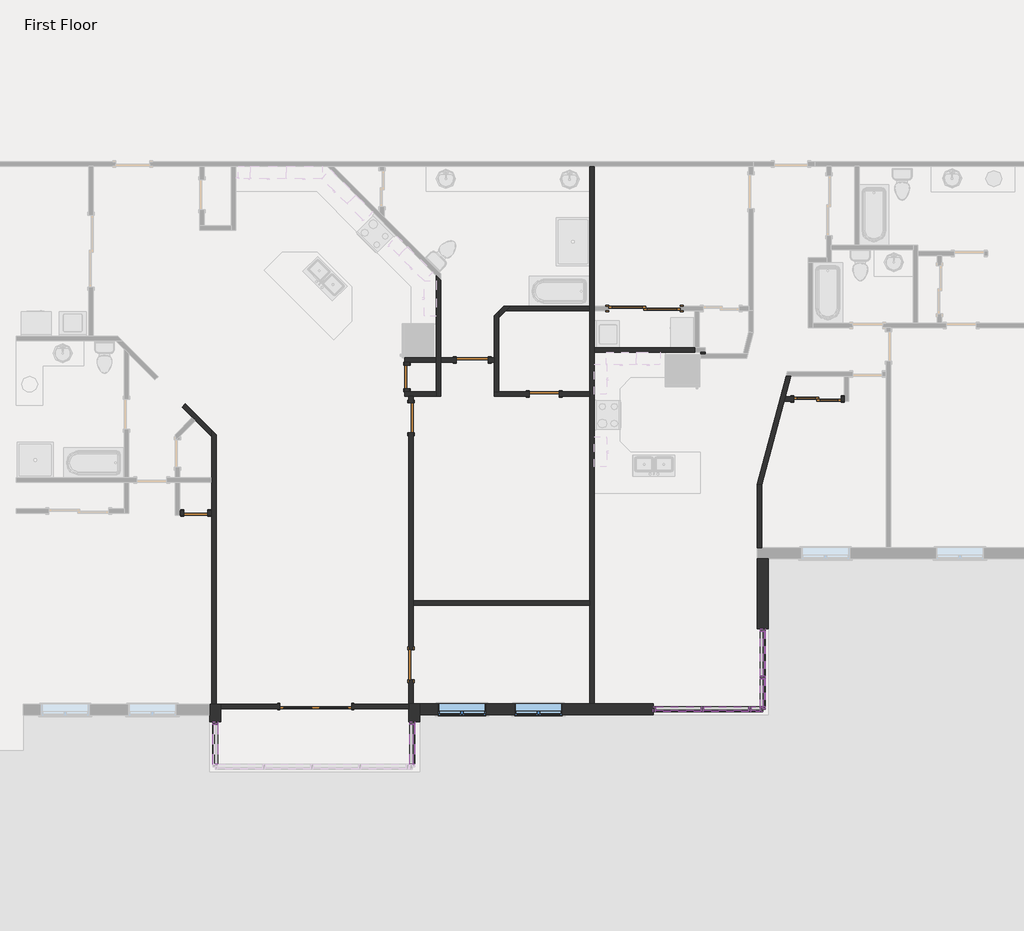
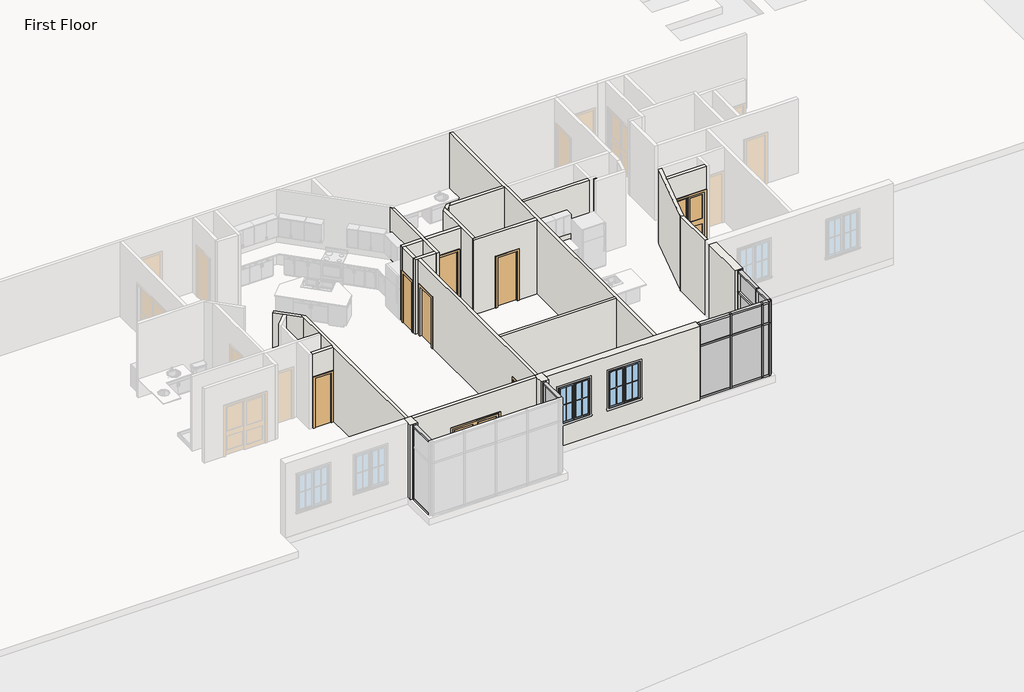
# One storey, part 4 of 17: 38 members, 24 walls, 12 plates, 9 doors, 2 windows.
"""IFC4 building model written with IfcOpenShell, lengths in millimetres."""

from ifc_helpers import new_model, si_unit, frame, origin, origin_with_axes, place, context, project, spatial, polyline, outline, extrude, faceted_brep, transform, mapped, element, save
from components import door_0a7806e9, door_e2285e44, door_d8f5dbb5, door_f2b275c1, door_d141acb4, door_900f836f, door_caaf2a11, rectangular_mullion_rectangular_mullion_1_fa3625a1, rectangular_mullion_rectangular_mullion_1_7cbf0b94, rectangular_mullion_rectangular_mullion_1_6186cc23, rectangular_mullion_rectangular_mullion_1_049a2e78, rectangular_mullion_rectangular_mullion_1_a50b3cda, rectangular_mullion_rectangular_mullion_1_5cd4c5ac, rectangular_mullion_rectangular_mullion_1_13524bf9, rectangular_mullion_rectangular_mullion_1_a1888574, rectangular_mullion_rectangular_mullion_1_777cae27, rectangular_mullion_rectangular_mullion_1_d1eb19d3, rectangular_mullion_rectangular_mullion_1_51e130ae, rectangular_mullion_rectangular_mullion_1_daa2411d, system_panel_glazed_0ed27d1d, system_panel_glazed_134bacdb, system_panel_glazed_53e6f9fb, system_panel_glazed_cb820e14, system_panel_glazed_7c98c5cb, system_panel_glazed_dc3c0d95, system_panel_glazed_257c6b8d, system_panel_glazed_6272dde4, system_panel_glazed_2237517c, system_panel_glazed_5f627d4c, window_33528cc2

model = new_model("IFC4")

# Units and contexts
model_context = context("Model", 3, world=origin())
ifc_project = project(units=[si_unit("LENGTHUNIT", "METRE", prefix="MILLI")], contexts=[model_context])

# Site, building, storey
site = spatial("IfcSite", under=ifc_project)
building = spatial("IfcBuilding", under=site)
storey = spatial("IfcBuildingStorey", under=building, Name="First Floor", Elevation=0.0)

# Doors
placement = place(None, origin())
door_shape = door_0a7806e9(model_context)
element("IfcDoor", 1, ObjectType="Double-Glass 1 : 72\" x 82\"", at=placement, inside=storey, context=model_context, shape_type="MappedRepresentation", body=[
    mapped(door_shape, transform((35119.623284, -18481.0379087, 0.0), x_axis=(-1.0, 0.0, 0.0), y_axis=(0.0, -1.0, 0.0), z_axis=(0.0, 0.0, 1.0))),
])
door_2_shape = door_e2285e44(model_context)
element("IfcDoor", 2, ObjectType="Single-Flush : 24\" x 80\"", at=placement, inside=storey, context=model_context, shape_type="MappedRepresentation", body=[
    mapped(door_2_shape, transform((37444.6738013, -10083.539835, 0.0), x_axis=(0.0, -1.0, 0.0), y_axis=(1.0, 0.0, 0.0), z_axis=(0.0, 0.0, 1.0))),
])
element("IfcDoor", 3, ObjectType="Single-Flush : 24\" x 80\"", at=placement, inside=storey, context=model_context, shape_type="MappedRepresentation", body=[
    mapped(door_2_shape, transform((32056.0053, -13556.0564679, 0.0), x_axis=(1.0, 0.0, 0.0), y_axis=(0.0, 1.0, 0.0), z_axis=(0.0, 0.0, 1.0))),
])
door_3_shape = door_d8f5dbb5(model_context)
element("IfcDoor", 4, ObjectType="Single-Flush : 30\" x 80\"", at=placement, inside=storey, context=model_context, shape_type="MappedRepresentation", body=[
    mapped(door_3_shape, transform((40944.0341819, -10517.1896208, 0.0), x_axis=(1.0, 0.0, 0.0), y_axis=(0.0, 1.0, 0.0), z_axis=(0.0, 0.0, 1.0))),
])
door_4_shape = door_f2b275c1(model_context)
element("IfcDoor", 5, ObjectType="Single-Flush : 30\" x 80\"", at=placement, inside=storey, context=model_context, shape_type="MappedRepresentation", body=[
    mapped(door_4_shape, transform((37544.2970292, -11126.7896208, 0.0), x_axis=(0.0, 1.0, 0.0), y_axis=(-1.0, 0.0, 0.0), z_axis=(0.0, 0.0, 1.0))),
])
element("IfcDoor", 6, ObjectType="Single-Flush : 30\" x 80\"", at=placement, inside=storey, context=model_context, shape_type="MappedRepresentation", body=[
    mapped(door_4_shape, transform((37544.2970292, -17416.6191587, 0.0), x_axis=(0.0, -1.0, 0.0), y_axis=(1.0, 0.0, 0.0), z_axis=(0.0, 0.0, 1.0))),
])
door_5_shape = door_d141acb4(model_context)
element("IfcDoor", 7, ObjectType="Single-Flush : 32\" x 84\"", at=placement, inside=storey, context=model_context, shape_type="MappedRepresentation", body=[
    mapped(door_5_shape, transform((39111.3713345, -9649.8900492, 0.0), x_axis=(1.0, 0.0, 0.0), y_axis=(0.0, 1.0, 0.0), z_axis=(0.0, 0.0, 1.0))),
])
door_6_shape = door_900f836f(model_context)
element("IfcDoor", 8, ObjectType="Sliding-Closet : 48\" x 80\"", at=placement, inside=storey, context=model_context, shape_type="MappedRepresentation", body=[
    mapped(door_6_shape, transform((47911.7460269, -10519.7402375, 0.0), x_axis=(-1.0, 0.0, 0.0), y_axis=(0.0, -1.0, 0.0), z_axis=(0.0, 0.0, 1.0))),
])
door_7_shape = door_caaf2a11(model_context)
element("IfcDoor", 9, ObjectType="Sliding-Closet : 72\" x 80\"", at=placement, inside=storey, context=model_context, shape_type="MappedRepresentation", body=[
    mapped(door_7_shape, transform((43502.5485687, -8462.220689, 0.0), x_axis=(1.0, 0.0, 0.0), y_axis=(0.0, 1.0, 0.0), z_axis=(0.0, 0.0, 1.0))),
])

# Members
rectangular_mullion_rectangular_mullion_1_shape = rectangular_mullion_rectangular_mullion_1_fa3625a1(model_context)
element("IfcMember", 10, ObjectType="Rectangular Mullion : Rectangular Mullion 1", at=placement, inside=storey, context=model_context, shape_type="MappedRepresentation", body=[
    mapped(rectangular_mullion_rectangular_mullion_1_shape, transform((44943.6345295, -18555.6618072, 3048.0), x_axis=(0.0, 0.0, 1.0), y_axis=(0.0, -1.0, 0.0), z_axis=(1.0, 0.0, 0.0))),
])
element("IfcMember", 11, ObjectType="Rectangular Mullion : Rectangular Mullion 1", at=placement, inside=storey, context=model_context, shape_type="MappedRepresentation", body=[
    mapped(rectangular_mullion_rectangular_mullion_1_shape, transform((46162.8345295, -18555.6618072, 3048.0), x_axis=(0.0, 0.0, 1.0), y_axis=(0.0, -1.0, 0.0), z_axis=(1.0, 0.0, 0.0))),
])
element("IfcMember", 12, ObjectType="Rectangular Mullion : Rectangular Mullion 1", at=placement, inside=storey, context=model_context, shape_type="MappedRepresentation", body=[
    mapped(rectangular_mullion_rectangular_mullion_1_shape, transform((43787.9345292, -18555.6618072, 0.0), x_axis=(0.0, 0.0, -1.0), y_axis=(0.0, -1.0, 0.0), z_axis=(-1.0, 0.0, 0.0))),
])
element("IfcMember", 13, ObjectType="Rectangular Mullion : Rectangular Mullion 1", at=placement, inside=storey, context=model_context, shape_type="MappedRepresentation", body=[
    mapped(rectangular_mullion_rectangular_mullion_1_shape, transform((45007.1345295, -18555.6618072, 0.0), x_axis=(0.0, 0.0, -1.0), y_axis=(0.0, -1.0, 0.0), z_axis=(-1.0, 0.0, 0.0))),
])
rectangular_mullion_rectangular_mullion_1_2_shape = rectangular_mullion_rectangular_mullion_1_7cbf0b94(model_context)
element("IfcMember", 14, ObjectType="Rectangular Mullion : Rectangular Mullion 1", at=placement, inside=storey, context=model_context, shape_type="MappedRepresentation", body=[
    mapped(rectangular_mullion_rectangular_mullion_1_2_shape, transform((44943.6345295, -18555.6618072, 2165.35), x_axis=(0.0, 0.0, 1.0), y_axis=(0.0, -1.0, 0.0), z_axis=(1.0, 0.0, 0.0))),
])
element("IfcMember", 15, ObjectType="Rectangular Mullion : Rectangular Mullion 1", at=placement, inside=storey, context=model_context, shape_type="MappedRepresentation", body=[
    mapped(rectangular_mullion_rectangular_mullion_1_2_shape, transform((46162.8345295, -18555.6618072, 2165.35), x_axis=(0.0, 0.0, 1.0), y_axis=(0.0, -1.0, 0.0), z_axis=(1.0, 0.0, 0.0))),
])
rectangular_mullion_rectangular_mullion_1_3_shape = rectangular_mullion_rectangular_mullion_1_6186cc23(model_context)
element("IfcMember", 16, ObjectType="Rectangular Mullion : Rectangular Mullion 1", at=placement, inside=storey, context=model_context, shape_type="MappedRepresentation", body=[
    mapped(rectangular_mullion_rectangular_mullion_1_3_shape, transform((44975.3845295, -18555.6618072, 0.0), x_axis=(1.0, 0.0, 0.0), y_axis=(0.0, -1.0, 0.0), z_axis=(0.0, 0.0, -1.0))),
])
element("IfcMember", 17, ObjectType="Rectangular Mullion : Rectangular Mullion 1", at=placement, inside=storey, context=model_context, shape_type="MappedRepresentation", body=[
    mapped(rectangular_mullion_rectangular_mullion_1_3_shape, transform((46194.5845295, -18555.6618072, 0.0), x_axis=(1.0, 0.0, 0.0), y_axis=(0.0, -1.0, 0.0), z_axis=(0.0, 0.0, -1.0))),
])
rectangular_mullion_rectangular_mullion_1_4_shape = rectangular_mullion_rectangular_mullion_1_049a2e78(model_context)
element("IfcMember", 18, ObjectType="Rectangular Mullion : Rectangular Mullion 1", at=placement, inside=storey, context=model_context, shape_type="MappedRepresentation", body=[
    mapped(rectangular_mullion_rectangular_mullion_1_4_shape, transform((44975.3845295, -18555.6618072, 2165.35), x_axis=(1.0, 0.0, 0.0), y_axis=(0.0, -1.0, 0.0), z_axis=(0.0, 0.0, -1.0))),
])
element("IfcMember", 19, ObjectType="Rectangular Mullion : Rectangular Mullion 1", at=placement, inside=storey, context=model_context, shape_type="MappedRepresentation", body=[
    mapped(rectangular_mullion_rectangular_mullion_1_4_shape, transform((46194.5845295, -18555.6618072, 2165.35), x_axis=(1.0, 0.0, 0.0), y_axis=(0.0, -1.0, 0.0), z_axis=(0.0, 0.0, -1.0))),
])
rectangular_mullion_rectangular_mullion_1_5_shape = rectangular_mullion_rectangular_mullion_1_a50b3cda(model_context)
element("IfcMember", 20, ObjectType="Rectangular Mullion : Rectangular Mullion 1", at=placement, inside=storey, context=model_context, shape_type="MappedRepresentation", body=[
    mapped(rectangular_mullion_rectangular_mullion_1_5_shape, transform((46511.3297255, -18555.6618072, 0.0), x_axis=(1.0, 0.0, 0.0), y_axis=(0.0, -1.0, 0.0), z_axis=(0.0, 0.0, -1.0))),
])
element("IfcMember", 21, ObjectType="Rectangular Mullion : Rectangular Mullion 1", at=placement, inside=storey, context=model_context, shape_type="MappedRepresentation", body=[
    mapped(rectangular_mullion_rectangular_mullion_1_5_shape, transform((37582.8620389, -18872.3566587, 0.0), x_axis=(0.0, 1.0, 0.0), y_axis=(1.0, 0.0, 0.0), z_axis=(0.0, 0.0, -1.0))),
])
rectangular_mullion_rectangular_mullion_1_6_shape = rectangular_mullion_rectangular_mullion_1_5cd4c5ac(model_context)
element("IfcMember", 22, ObjectType="Rectangular Mullion : Rectangular Mullion 1", at=placement, inside=storey, context=model_context, shape_type="MappedRepresentation", body=[
    mapped(rectangular_mullion_rectangular_mullion_1_6_shape, transform((46511.3297255, -18555.6618072, 2165.35), x_axis=(1.0, 0.0, 0.0), y_axis=(0.0, -1.0, 0.0), z_axis=(0.0, 0.0, -1.0))),
])
element("IfcMember", 23, ObjectType="Rectangular Mullion : Rectangular Mullion 1", at=placement, inside=storey, context=model_context, shape_type="MappedRepresentation", body=[
    mapped(rectangular_mullion_rectangular_mullion_1_6_shape, transform((37582.8620389, -18872.3566587, 2165.35), x_axis=(0.0, 1.0, 0.0), y_axis=(1.0, 0.0, 0.0), z_axis=(0.0, 0.0, -1.0))),
])
element("IfcMember", 24, ObjectType="Rectangular Mullion : Rectangular Mullion 1", at=placement, inside=storey, context=model_context, shape_type="MappedRepresentation", body=[
    mapped(rectangular_mullion_rectangular_mullion_1_6_shape, transform((43724.4345292, -18555.6618072, 3048.0), x_axis=(-1.0, 0.0, 0.0), y_axis=(0.0, -1.0, 0.0), z_axis=(0.0, 0.0, 1.0))),
])
element("IfcMember", 25, ObjectType="Rectangular Mullion : Rectangular Mullion 1", at=placement, inside=storey, context=model_context, shape_type="MappedRepresentation", body=[
    mapped(rectangular_mullion_rectangular_mullion_1_6_shape, transform((32553.6620389, -18872.3566587, 3048.0), x_axis=(0.0, 1.0, 0.0), y_axis=(-1.0, 0.0, 0.0), z_axis=(0.0, 0.0, 1.0))),
])
element("IfcMember", 26, ObjectType="Rectangular Mullion : Rectangular Mullion 1", at=placement, inside=storey, context=model_context, shape_type="MappedRepresentation", body=[
    mapped(rectangular_mullion_rectangular_mullion_1_5_shape, transform((43724.4345292, -18555.6618072, 2165.35), x_axis=(-1.0, 0.0, 0.0), y_axis=(0.0, -1.0, 0.0), z_axis=(0.0, 0.0, 1.0))),
])
element("IfcMember", 27, ObjectType="Rectangular Mullion : Rectangular Mullion 1", at=placement, inside=storey, context=model_context, shape_type="MappedRepresentation", body=[
    mapped(rectangular_mullion_rectangular_mullion_1_5_shape, transform((32553.6620389, -18872.3566587, 2165.35), x_axis=(0.0, 1.0, 0.0), y_axis=(-1.0, 0.0, 0.0), z_axis=(0.0, 0.0, 1.0))),
])
element("IfcMember", 28, ObjectType="Rectangular Mullion : Rectangular Mullion 1", at=placement, inside=storey, context=model_context, shape_type="MappedRepresentation", body=[
    mapped(rectangular_mullion_rectangular_mullion_1_shape, transform((46511.3297255, -17714.54885, 3048.0), x_axis=(0.0, 0.0, 1.0), y_axis=(-1.0, 0.0, 0.0), z_axis=(0.0, -1.0, 0.0))),
])
element("IfcMember", 29, ObjectType="Rectangular Mullion : Rectangular Mullion 1", at=placement, inside=storey, context=model_context, shape_type="MappedRepresentation", body=[
    mapped(rectangular_mullion_rectangular_mullion_1_shape, transform((46511.3297255, -16558.8488497, 0.0), x_axis=(0.0, 0.0, -1.0), y_axis=(-1.0, 0.0, 0.0), z_axis=(0.0, 1.0, 0.0))),
])
element("IfcMember", 30, ObjectType="Rectangular Mullion : Rectangular Mullion 1", at=placement, inside=storey, context=model_context, shape_type="MappedRepresentation", body=[
    mapped(rectangular_mullion_rectangular_mullion_1_5_shape, transform((46511.3297255, -18555.6618072, 0.0), x_axis=(0.0, -1.0, 0.0), y_axis=(-1.0, 0.0, 0.0), z_axis=(0.0, 0.0, -1.0))),
])
element("IfcMember", 31, ObjectType="Rectangular Mullion : Rectangular Mullion 1", at=placement, inside=storey, context=model_context, shape_type="MappedRepresentation", body=[
    mapped(rectangular_mullion_rectangular_mullion_1_6_shape, transform((46511.3297255, -18555.6618072, 2165.35), x_axis=(0.0, -1.0, 0.0), y_axis=(-1.0, 0.0, 0.0), z_axis=(0.0, 0.0, -1.0))),
])
element("IfcMember", 32, ObjectType="Rectangular Mullion : Rectangular Mullion 1", at=placement, inside=storey, context=model_context, shape_type="MappedRepresentation", body=[
    mapped(rectangular_mullion_rectangular_mullion_1_6_shape, transform((46511.3297255, -16495.3488497, 3048.0), x_axis=(0.0, 1.0, 0.0), y_axis=(-1.0, 0.0, 0.0), z_axis=(0.0, 0.0, 1.0))),
])
element("IfcMember", 33, ObjectType="Rectangular Mullion : Rectangular Mullion 1", at=placement, inside=storey, context=model_context, shape_type="MappedRepresentation", body=[
    mapped(rectangular_mullion_rectangular_mullion_1_5_shape, transform((46511.3297255, -16495.3488497, 2165.35), x_axis=(0.0, 1.0, 0.0), y_axis=(-1.0, 0.0, 0.0), z_axis=(0.0, 0.0, 1.0))),
])
element("IfcMember", 34, ObjectType="Rectangular Mullion : Rectangular Mullion 1", at=placement, inside=storey, context=model_context, shape_type="MappedRepresentation", body=[
    mapped(rectangular_mullion_rectangular_mullion_1_2_shape, transform((46511.3297255, -17714.54885, 2165.35), x_axis=(0.0, 0.0, 1.0), y_axis=(-1.0, 0.0, 0.0), z_axis=(0.0, -1.0, 0.0))),
])
element("IfcMember", 35, ObjectType="Rectangular Mullion : Rectangular Mullion 1", at=placement, inside=storey, context=model_context, shape_type="MappedRepresentation", body=[
    mapped(rectangular_mullion_rectangular_mullion_1_3_shape, transform((46511.3297255, -17746.29885, 0.0), x_axis=(0.0, -1.0, 0.0), y_axis=(-1.0, 0.0, 0.0), z_axis=(0.0, 0.0, -1.0))),
])
element("IfcMember", 36, ObjectType="Rectangular Mullion : Rectangular Mullion 1", at=placement, inside=storey, context=model_context, shape_type="MappedRepresentation", body=[
    mapped(rectangular_mullion_rectangular_mullion_1_4_shape, transform((46511.3297255, -17746.29885, 2165.35), x_axis=(0.0, -1.0, 0.0), y_axis=(-1.0, 0.0, 0.0), z_axis=(0.0, 0.0, -1.0))),
])
rectangular_mullion_rectangular_mullion_1_7_shape = rectangular_mullion_rectangular_mullion_1_13524bf9(model_context)
element("IfcMember", 37, ObjectType="Rectangular Mullion : Rectangular Mullion 1", at=placement, inside=storey, context=model_context, shape_type="MappedRepresentation", body=[
    mapped(rectangular_mullion_rectangular_mullion_1_7_shape, transform((46511.3297255, -18492.1618072, 3048.0), x_axis=(0.0, 0.0, 1.0), y_axis=(-1.0, 0.0, 0.0), z_axis=(0.0, -1.0, 0.0))),
])
element("IfcMember", 38, ObjectType="Rectangular Mullion : Rectangular Mullion 1", at=placement, inside=storey, context=model_context, shape_type="MappedRepresentation", body=[
    mapped(rectangular_mullion_rectangular_mullion_1_7_shape, transform((46511.3297255, -17778.04885, 0.0), x_axis=(0.0, 0.0, -1.0), y_axis=(-1.0, 0.0, 0.0), z_axis=(0.0, 1.0, 0.0))),
])
rectangular_mullion_rectangular_mullion_1_8_shape = rectangular_mullion_rectangular_mullion_1_a1888574(model_context)
element("IfcMember", 39, ObjectType="Rectangular Mullion : Rectangular Mullion 1", at=placement, inside=storey, context=model_context, shape_type="MappedRepresentation", body=[
    mapped(rectangular_mullion_rectangular_mullion_1_8_shape, transform((46511.3297255, -18492.1618072, 2165.35), x_axis=(0.0, 0.0, 1.0), y_axis=(-1.0, 0.0, 0.0), z_axis=(0.0, -1.0, 0.0))),
])
rectangular_mullion_rectangular_mullion_1_9_shape = rectangular_mullion_rectangular_mullion_1_777cae27(model_context)
element("IfcMember", 40, ObjectType="Rectangular Mullion : Rectangular Mullion 1", at=placement, inside=storey, context=model_context, shape_type="MappedRepresentation", body=[
    mapped(rectangular_mullion_rectangular_mullion_1_9_shape, transform((46447.8297255, -18555.6618072, 3048.0), x_axis=(0.0, 0.0, 1.0), y_axis=(0.0, -1.0, 0.0), z_axis=(1.0, 0.0, 0.0))),
])
element("IfcMember", 41, ObjectType="Rectangular Mullion : Rectangular Mullion 1", at=placement, inside=storey, context=model_context, shape_type="MappedRepresentation", body=[
    mapped(rectangular_mullion_rectangular_mullion_1_9_shape, transform((46226.3345295, -18555.6618072, 0.0), x_axis=(0.0, 0.0, -1.0), y_axis=(0.0, -1.0, 0.0), z_axis=(-1.0, 0.0, 0.0))),
])
rectangular_mullion_rectangular_mullion_1_10_shape = rectangular_mullion_rectangular_mullion_1_d1eb19d3(model_context)
element("IfcMember", 42, ObjectType="Rectangular Mullion : Rectangular Mullion 1", at=placement, inside=storey, context=model_context, shape_type="MappedRepresentation", body=[
    mapped(rectangular_mullion_rectangular_mullion_1_10_shape, transform((46447.8297255, -18555.6618072, 2165.35), x_axis=(0.0, 0.0, 1.0), y_axis=(0.0, -1.0, 0.0), z_axis=(1.0, 0.0, 0.0))),
])
rectangular_mullion_rectangular_mullion_1_11_shape = rectangular_mullion_rectangular_mullion_1_51e130ae(model_context)
element("IfcMember", 43, ObjectType="Rectangular Mullion : Rectangular Mullion 1", at=placement, inside=storey, context=model_context, shape_type="MappedRepresentation", body=[
    mapped(rectangular_mullion_rectangular_mullion_1_11_shape, transform((32553.6620389, -18935.8566587, 0.0), x_axis=(0.0, 0.0, -1.0), y_axis=(-1.0, 0.0, 0.0), z_axis=(0.0, 1.0, 0.0))),
])
element("IfcMember", 44, ObjectType="Rectangular Mullion : Rectangular Mullion 1", at=placement, inside=storey, context=model_context, shape_type="MappedRepresentation", body=[
    mapped(rectangular_mullion_rectangular_mullion_1_11_shape, transform((37582.8620389, -19958.2015972, 0.0), x_axis=(0.0, 0.0, -1.0), y_axis=(1.0, 0.0, 0.0), z_axis=(0.0, -1.0, 0.0))),
])
rectangular_mullion_rectangular_mullion_1_12_shape = rectangular_mullion_rectangular_mullion_1_daa2411d(model_context)
element("IfcMember", 45, ObjectType="Rectangular Mullion : Rectangular Mullion 1", at=placement, inside=storey, context=model_context, shape_type="MappedRepresentation", body=[
    mapped(rectangular_mullion_rectangular_mullion_1_12_shape, transform((37582.8620389, -18935.8566587, 2165.35), x_axis=(0.0, 0.0, 1.0), y_axis=(1.0, 0.0, 0.0), z_axis=(0.0, 1.0, 0.0))),
])
element("IfcMember", 46, ObjectType="Rectangular Mullion : Rectangular Mullion 1", at=placement, inside=storey, context=model_context, shape_type="MappedRepresentation", body=[
    mapped(rectangular_mullion_rectangular_mullion_1_11_shape, transform((32553.6620389, -19958.2015972, 3048.0), x_axis=(0.0, 0.0, 1.0), y_axis=(-1.0, 0.0, 0.0), z_axis=(0.0, -1.0, 0.0))),
])
element("IfcMember", 47, ObjectType="Rectangular Mullion : Rectangular Mullion 1", at=placement, inside=storey, context=model_context, shape_type="MappedRepresentation", body=[
    mapped(rectangular_mullion_rectangular_mullion_1_11_shape, transform((37582.8620389, -18935.8566587, 3048.0), x_axis=(0.0, 0.0, 1.0), y_axis=(1.0, 0.0, 0.0), z_axis=(0.0, 1.0, 0.0))),
])

# Plates
system_panel_glazed_shape = system_panel_glazed_0ed27d1d(model_context)
element("IfcPlate", 48, ObjectType="System Panel : Glazed", at=placement, inside=storey, context=model_context, shape_type="MappedRepresentation", body=[
    mapped(system_panel_glazed_shape, transform((44365.7845293, -18555.6618072, 63.5), x_axis=(1.0, 0.0, 0.0), y_axis=(0.0, 1.0, 0.0), z_axis=(0.0, 0.0, 1.0))),
])
element("IfcPlate", 49, ObjectType="System Panel : Glazed", at=placement, inside=storey, context=model_context, shape_type="MappedRepresentation", body=[
    mapped(system_panel_glazed_shape, transform((45584.9845295, -18555.6618072, 63.5), x_axis=(1.0, 0.0, 0.0), y_axis=(0.0, 1.0, 0.0), z_axis=(0.0, 0.0, 1.0))),
])
system_panel_glazed_2_shape = system_panel_glazed_134bacdb(model_context)
element("IfcPlate", 50, ObjectType="System Panel : Glazed", at=placement, inside=storey, context=model_context, shape_type="MappedRepresentation", body=[
    mapped(system_panel_glazed_2_shape, transform((44365.7845293, -18555.6618072, 2197.1), x_axis=(1.0, 0.0, 0.0), y_axis=(0.0, 1.0, 0.0), z_axis=(0.0, 0.0, 1.0))),
])
element("IfcPlate", 51, ObjectType="System Panel : Glazed", at=placement, inside=storey, context=model_context, shape_type="MappedRepresentation", body=[
    mapped(system_panel_glazed_2_shape, transform((45584.9845295, -18555.6618072, 2197.1), x_axis=(1.0, 0.0, 0.0), y_axis=(0.0, 1.0, 0.0), z_axis=(0.0, 0.0, 1.0))),
])
system_panel_glazed_3_shape = system_panel_glazed_53e6f9fb(model_context)
element("IfcPlate", 52, ObjectType="System Panel : Glazed", at=placement, inside=storey, context=model_context, shape_type="MappedRepresentation", body=[
    mapped(system_panel_glazed_3_shape, transform((46511.3297255, -17136.6988499, 63.5), x_axis=(0.0, -1.0, 0.0), y_axis=(1.0, 0.0, 0.0), z_axis=(0.0, 0.0, 1.0))),
])
system_panel_glazed_4_shape = system_panel_glazed_cb820e14(model_context)
element("IfcPlate", 53, ObjectType="System Panel : Glazed", at=placement, inside=storey, context=model_context, shape_type="MappedRepresentation", body=[
    mapped(system_panel_glazed_4_shape, transform((46511.3297255, -17136.6988499, 2197.1), x_axis=(0.0, -1.0, 0.0), y_axis=(1.0, 0.0, 0.0), z_axis=(0.0, 0.0, 1.0))),
])
system_panel_glazed_5_shape = system_panel_glazed_7c98c5cb(model_context)
element("IfcPlate", 54, ObjectType="System Panel : Glazed", at=placement, inside=storey, context=model_context, shape_type="MappedRepresentation", body=[
    mapped(system_panel_glazed_5_shape, transform((46511.3297255, -18135.1053286, 63.5), x_axis=(0.0, -1.0, 0.0), y_axis=(1.0, 0.0, 0.0), z_axis=(0.0, 0.0, 1.0))),
])
system_panel_glazed_6_shape = system_panel_glazed_dc3c0d95(model_context)
element("IfcPlate", 55, ObjectType="System Panel : Glazed", at=placement, inside=storey, context=model_context, shape_type="MappedRepresentation", body=[
    mapped(system_panel_glazed_6_shape, transform((46511.3297255, -18135.1053286, 2197.1), x_axis=(0.0, -1.0, 0.0), y_axis=(1.0, 0.0, 0.0), z_axis=(0.0, 0.0, 1.0))),
])
system_panel_glazed_7_shape = system_panel_glazed_257c6b8d(model_context)
element("IfcPlate", 56, ObjectType="System Panel : Glazed", at=placement, inside=storey, context=model_context, shape_type="MappedRepresentation", body=[
    mapped(system_panel_glazed_7_shape, transform((46337.0821275, -18555.6618072, 63.5), x_axis=(1.0, 0.0, 0.0), y_axis=(0.0, 1.0, 0.0), z_axis=(0.0, 0.0, 1.0))),
])
system_panel_glazed_8_shape = system_panel_glazed_6272dde4(model_context)
element("IfcPlate", 57, ObjectType="System Panel : Glazed", at=placement, inside=storey, context=model_context, shape_type="MappedRepresentation", body=[
    mapped(system_panel_glazed_8_shape, transform((46337.0821275, -18555.6618072, 2197.1), x_axis=(1.0, 0.0, 0.0), y_axis=(0.0, 1.0, 0.0), z_axis=(0.0, 0.0, 1.0))),
])
system_panel_glazed_9_shape = system_panel_glazed_2237517c(model_context)
element("IfcPlate", 58, ObjectType="System Panel : Glazed", at=placement, inside=storey, context=model_context, shape_type="MappedRepresentation", body=[
    mapped(system_panel_glazed_9_shape, transform((37582.8620389, -19447.029128, 63.5), x_axis=(0.0, 1.0, 0.0), y_axis=(-1.0, 0.0, 0.0), z_axis=(0.0, 0.0, 1.0))),
])
system_panel_glazed_10_shape = system_panel_glazed_5f627d4c(model_context)
element("IfcPlate", 59, ObjectType="System Panel : Glazed", at=placement, inside=storey, context=model_context, shape_type="MappedRepresentation", body=[
    mapped(system_panel_glazed_10_shape, transform((37582.8620389, -19447.029128, 2197.1), x_axis=(0.0, 1.0, 0.0), y_axis=(-1.0, 0.0, 0.0), z_axis=(0.0, 0.0, 1.0))),
])

# Walls
element("IfcWall", 60, ObjectType="Exterior - Brick on Wood Stud", at=placement, inside=storey, context=model_context, shape_type="Brep", body=[
    faceted_brep([(32412.3745389, -18426.2691587, 0.0), (32412.3745389, -18708.8441587, 0.0), (32412.3745389, -18872.3566587, 0.0), (32412.3745389, -18872.3566587, 3048.0), (32412.3745389, -18708.8441587, 3048.0), (32412.3745389, -18426.2691587, 3048.0), (32694.9495389, -18426.2691587, 0.0), (32694.9495389, -18426.2691587, 3048.0), (32694.9495389, -18540.5691587, 3048.0), (32694.9495389, -18872.3566587, 3048.0), (32694.9495389, -18872.3566587, 0.0), (32694.9495389, -18540.5691587, 0.0), (32465.5565643, -18426.2691587, 0.0), (32579.8565643, -18426.2691587, 0.0), (32579.8565643, -18426.2691587, 3048.0), (32465.5565643, -18426.2691587, 3048.0)], [[[0, 1, 2, 3, 4, 5]], [[6, 7, 8, 9, 10, 11]], [[2, 1, 0, 12, 13, 6, 11, 10]], [[3, 2, 10, 9]], [[5, 4, 3, 9, 8, 7, 14, 15]], [[0, 5, 15, 14, 7, 6, 13, 12]]]),
])
element("IfcWall", 61, ObjectType="Exterior - Brick on Wood Stud", at=placement, inside=storey, context=model_context, shape_type="Brep", body=[
    faceted_brep([(37769.7220292, -18872.3566587, 0.0), (37769.7220292, -18696.9493072, 0.0), (37769.7220292, -18414.3743072, 0.0), (37769.7220292, -18414.3743072, 3048.0), (37769.7220292, -18696.9493072, 3048.0), (37769.7220292, -18872.3566587, 3048.0), (37487.1470292, -18872.3566587, 0.0), (37487.1470292, -18872.3566587, 3048.0), (37487.1470292, -18540.5691587, 3048.0), (37487.1470292, -18426.2691587, 3048.0), (37487.1470292, -18414.3743072, 3048.0), (37487.1470292, -18414.3743072, 0.0), (37487.1470292, -18426.2691587, 0.0), (37487.1470292, -18540.5691587, 0.0)], [[[0, 1, 2, 3, 4, 5]], [[6, 7, 8, 9, 10, 11, 12, 13]], [[2, 1, 0, 6, 13, 12, 11]], [[5, 4, 3, 10, 9, 8, 7]], [[0, 5, 7, 6]], [[3, 2, 11, 10]]]),
])
element("IfcWall", 62, ObjectType="Exterior - Brick on Wood Stud", at=placement, inside=storey, context=model_context, shape_type="Brep", body=[
    faceted_brep([(37769.7220292, -18696.9493072, 0.0), (43724.4345292, -18696.9493072, 0.0), (43724.4345292, -18696.9493072, 3048.0), (37769.7220292, -18696.9493072, 3048.0), (38238.0345292, -18696.9493072, 2438.4), (39457.2345292, -18696.9493072, 2438.4), (39457.2345292, -18696.9493072, 914.4), (38238.0345292, -18696.9493072, 914.4), (40185.8970292, -18696.9493072, 2438.4), (41405.0970292, -18696.9493072, 2438.4), (41405.0970292, -18696.9493072, 914.4), (40185.8970292, -18696.9493072, 914.4), (37769.7220292, -18414.3743072, 0.0), (37769.7220292, -18414.3743072, 3048.0), (42109.9470292, -18414.3743072, 3048.0), (42224.2470292, -18414.3743072, 3048.0), (43724.4345292, -18414.3743072, 3048.0), (43724.4345292, -18414.3743072, 0.0), (42224.2470292, -18414.3743072, 0.0), (42109.9470292, -18414.3743072, 0.0), (38238.0345292, -18414.3743072, 2438.4), (38238.0345292, -18414.3743072, 914.4), (39457.2345292, -18414.3743072, 914.4), (39457.2345292, -18414.3743072, 2438.4), (40185.8970292, -18414.3743072, 2438.4), (40185.8970292, -18414.3743072, 914.4), (41405.0970292, -18414.3743072, 914.4), (41405.0970292, -18414.3743072, 2438.4)], [[[0, 1, 2, 3], [4, 5, 6, 7], [8, 9, 10, 11]], [[12, 13, 14, 15, 16, 17, 18, 19], [20, 21, 22, 23], [24, 25, 26, 27]], [[1, 0, 12, 19, 18, 17]], [[2, 1, 17, 16]], [[3, 2, 16, 15, 14, 13]], [[21, 20, 4, 7]], [[22, 21, 7, 6]], [[23, 22, 6, 5]], [[20, 23, 5, 4]], [[25, 24, 8, 11]], [[26, 25, 11, 10]], [[27, 26, 10, 9]], [[24, 27, 9, 8]], [[0, 3, 13, 12]]]),
])
element("IfcWall", 63, ObjectType="Exterior - Brick on Wood Stud", at=placement, inside=storey, context=model_context, shape_type="SweptSolid", body=[
    extrude(outline(polyline([(46652.6172255, -14719.4129097), (46652.6172255, -16495.3488497), (46370.0422255, -16495.3488497), (46370.0422255, -14719.4129097), (46652.6172255, -14719.4129097)])), origin_with_axes(), (0.0, 0.0, 1.0), 3048.0),
])
element("IfcWall", 64, ObjectType="Interior - 4 1/2\" Partition", at=placement, inside=storey, context=model_context, shape_type="Brep", body=[
    faceted_brep([(42109.9470292, -4708.5417963, 0.0), (42109.9470292, -8278.070689, 0.0), (42109.9470292, -8392.370689, 0.0), (42109.9470292, -10460.0396208, 0.0), (42109.9470292, -10574.3396208, 0.0), (42109.9470292, -15784.9064679, 0.0), (42109.9470292, -15899.2064679, 0.0), (42109.9470292, -18414.3743072, 0.0), (42109.9470292, -18414.3743072, 3048.0), (42109.9470292, -15899.2064679, 3048.0), (42109.9470292, -15784.9064679, 3048.0), (42109.9470292, -10574.3396208, 3048.0), (42109.9470292, -10460.0396208, 3048.0), (42109.9470292, -8392.370689, 3048.0), (42109.9470292, -8278.070689, 3048.0), (42109.9470292, -4708.5417963, 3048.0), (42224.2470292, -4708.5417963, 0.0), (42224.2470292, -4708.5417963, 3048.0), (42224.2470292, -8278.070689, 3048.0), (42224.2470292, -8392.370689, 3048.0), (42224.2470292, -9338.0876998, 3048.0), (42224.2470292, -9452.3876998, 3048.0), (42224.2470292, -18414.3743072, 3048.0), (42224.2470292, -18414.3743072, 0.0), (42224.2470292, -9452.3876998, 0.0), (42224.2470292, -9338.0876998, 0.0), (42224.2470292, -8392.370689, 0.0), (42224.2470292, -8278.070689, 0.0)], [[[0, 1, 2, 3, 4, 5, 6, 7, 8, 9, 10, 11, 12, 13, 14, 15]], [[16, 17, 18, 19, 20, 21, 22, 23, 24, 25, 26, 27]], [[7, 6, 5, 4, 3, 2, 1, 0, 16, 27, 26, 25, 24, 23]], [[15, 14, 13, 12, 11, 10, 9, 8, 22, 21, 20, 19, 18, 17]], [[0, 15, 17, 16]], [[8, 7, 23, 22]]]),
])
element("IfcWall", 65, ObjectType="Interior - 4 1/2\" Partition", at=placement, inside=storey, context=model_context, shape_type="Brep", body=[
    faceted_brep([(32465.5565643, -11438.5770572, 0.0), (32465.5565643, -11600.2216674, 0.0), (32465.5565643, -12650.0236347, 0.0), (32465.5565643, -12764.3236347, 0.0), (32465.5565643, -13498.9064679, 0.0), (32465.5565643, -13613.2064679, 0.0), (32465.5565643, -18426.2691587, 0.0), (32465.5565643, -18426.2691587, 3048.0), (32465.5565643, -13613.2064679, 3048.0), (32465.5565643, -13498.9064679, 3048.0), (32465.5565643, -12764.3236347, 3048.0), (32465.5565643, -12650.0236347, 3048.0), (32465.5565643, -11600.2216674, 3048.0), (32465.5565643, -11438.5770572, 3048.0), (32579.8565643, -11552.8770572, 0.0), (32579.8565643, -11552.8770572, 3048.0), (32579.8565643, -18426.2691587, 3048.0), (32579.8565643, -18426.2691587, 0.0)], [[[0, 1, 2, 3, 4, 5, 6, 7, 8, 9, 10, 11, 12, 13]], [[14, 15, 16, 17]], [[6, 5, 4, 3, 2, 1, 0, 14, 17]], [[13, 12, 11, 10, 9, 8, 7, 16, 15]], [[0, 13, 15, 14]], [[7, 6, 17, 16]]]),
])
element("IfcWall", 66, ObjectType="Interior - 4 1/2\" Partition", at=placement, inside=storey, context=model_context, shape_type="SweptSolid", body=[
    extrude(outline(polyline([(2032.0, 32360.8053), (0.0, 32360.8053), (0.0, 32465.5565643), (3048.0, 32465.5565643), (3048.0, 31646.4540357), (0.0, 31646.4540357), (0.0, 31751.2053), (2032.0, 31751.2053), (2032.0, 32360.8053)])), frame((0.0, -13613.2064679, 0.0), z_axis=(0.0, 1.0, 0.0), x_axis=(0.0, 0.0, 1.0)), (0.0, 0.0, 1.0), 114.3),
])
element("IfcWall", 67, ObjectType="Interior - 4 1/2\" Partition", at=placement, inside=storey, context=model_context, shape_type="SweptSolid", body=[
    extrude(outline(polyline([(0.0, 32694.9495389), (0.0, 34205.223284), (2082.8, 34205.223284), (2082.8, 36034.023284), (0.0, 36034.023284), (0.0, 37487.1470292), (3048.0, 37487.1470292), (3048.0, 32694.9495389), (0.0, 32694.9495389)])), frame((0.0, -18540.5691587, 0.0), z_axis=(0.0, 1.0, 0.0), x_axis=(0.0, 0.0, 1.0)), (0.0, 0.0, 1.0), 114.3),
])
element("IfcWall", 68, ObjectType="Interior - 4 1/2\" Partition", at=placement, inside=storey, context=model_context, shape_type="SweptSolid", body=[
    extrude(outline(polyline([(37601.4470292, -15784.9064679), (42109.9470292, -15784.9064679), (42109.9470292, -15899.2064679), (37601.4470292, -15899.2064679), (37601.4470292, -15784.9064679)])), origin_with_axes(), (0.0, 0.0, 1.0), 3048.0),
])
element("IfcWall", 69, ObjectType="Interior - 4 1/2\" Partition", at=placement, inside=storey, context=model_context, shape_type="Brep", body=[
    faceted_brep([(37487.1470292, -17797.6191587, 2032.0), (37487.1470292, -17797.6191587, 0.0), (37487.1470292, -18426.2691587, 0.0), (37487.1470292, -18426.2691587, 3048.0), (37487.1470292, -10574.3396208, 3048.0), (37487.1470292, -10574.3396208, 0.0), (37487.1470292, -10745.7896208, 0.0), (37487.1470292, -10745.7896208, 2032.0), (37487.1470292, -11507.7896208, 2032.0), (37487.1470292, -11507.7896208, 0.0), (37487.1470292, -17035.6191587, 0.0), (37487.1470292, -17035.6191587, 2032.0), (37601.4470292, -18426.2691587, 0.0), (37601.4470292, -17797.6191587, 0.0), (37601.4470292, -17797.6191587, 2032.0), (37601.4470292, -17035.6191587, 2032.0), (37601.4470292, -17035.6191587, 0.0), (37601.4470292, -15899.2064679, 0.0), (37601.4470292, -15784.9064679, 0.0), (37601.4470292, -11507.7896208, 0.0), (37601.4470292, -11507.7896208, 2032.0), (37601.4470292, -10745.7896208, 2032.0), (37601.4470292, -10745.7896208, 0.0), (37601.4470292, -10574.3396208, 0.0), (37601.4470292, -10574.3396208, 3048.0), (37601.4470292, -15784.9064679, 3048.0), (37601.4470292, -15899.2064679, 3048.0), (37601.4470292, -18426.2691587, 3048.0)], [[[0, 1, 2, 3, 4, 5, 6, 7, 8, 9, 10, 11]], [[12, 13, 14, 15, 16, 17, 18, 19, 20, 21, 22, 23, 24, 25, 26, 27]], [[23, 22, 6, 5]], [[10, 9, 19, 18, 17, 16]], [[2, 1, 13, 12]], [[4, 3, 27, 26, 25, 24]], [[7, 6, 22, 21]], [[8, 7, 21, 20]], [[9, 8, 20, 19]], [[14, 13, 1, 0]], [[15, 14, 0, 11]], [[16, 15, 11, 10]], [[5, 4, 24, 23]], [[3, 2, 12, 27]]]),
])
element("IfcWall", 70, ObjectType="Interior - 4 1/2\" Partition", at=placement, inside=storey, context=model_context, shape_type="Brep", body=[
    faceted_brep([(38310.9505062, -10574.3396208, 0.0), (38310.9505062, -9707.0400492, 0.0), (38310.9505062, -9592.7400492, 0.0), (38310.9505062, -7612.7771359, 0.0), (38310.9505062, -7612.7771359, 3048.0), (38310.9505062, -9592.7400492, 3048.0), (38310.9505062, -9707.0400492, 3048.0), (38310.9505062, -10574.3396208, 3048.0), (38196.6505062, -10574.3396208, 0.0), (38196.6505062, -10574.3396208, 3048.0), (38196.6505062, -10460.0396208, 3048.0), (38196.6505062, -9707.0400492, 3048.0), (38196.6505062, -9592.7400492, 3048.0), (38196.6505062, -7498.4771359, 3048.0), (38196.6505062, -7498.4771359, 0.0), (38196.6505062, -9592.7400492, 0.0), (38196.6505062, -9707.0400492, 0.0), (38196.6505062, -10460.0396208, 0.0)], [[[0, 1, 2, 3, 4, 5, 6, 7]], [[8, 9, 10, 11, 12, 13, 14, 15, 16, 17]], [[3, 2, 1, 0, 8, 17, 16, 15, 14]], [[7, 6, 5, 4, 13, 12, 11, 10, 9]], [[0, 7, 9, 8]], [[4, 3, 14, 13]]]),
])
element("IfcWall", 71, ObjectType="Interior - 4 1/2\" Partition", at=placement, inside=storey, context=model_context, shape_type="Brep", body=[
    faceted_brep([(37387.5238013, -10574.3396208, 0.0), (37487.1470292, -10574.3396208, 0.0), (37601.4470292, -10574.3396208, 0.0), (38196.6505062, -10574.3396208, 0.0), (38196.6505062, -10574.3396208, 3048.0), (37601.4470292, -10574.3396208, 3048.0), (37487.1470292, -10574.3396208, 3048.0), (37387.5238013, -10574.3396208, 3048.0), (37387.5238013, -10460.0396208, 0.0), (37387.5238013, -10460.0396208, 3048.0), (37501.8238013, -10460.0396208, 3048.0), (38196.6505062, -10460.0396208, 3048.0), (38196.6505062, -10460.0396208, 0.0), (37501.8238013, -10460.0396208, 0.0)], [[[0, 1, 2, 3, 4, 5, 6, 7]], [[8, 9, 10, 11, 12, 13]], [[3, 2, 1, 0, 8, 13, 12]], [[7, 6, 5, 4, 11, 10, 9]], [[0, 7, 9, 8]], [[4, 3, 12, 11]]]),
])
element("IfcWall", 72, ObjectType="Interior - 4 1/2\" Partition", at=placement, inside=storey, context=model_context, shape_type="Brep", body=[
    faceted_brep([(39517.7713345, -9592.7400492, 0.0), (39517.7713345, -9592.7400492, 2133.6), (38704.9713345, -9592.7400492, 2133.6), (38704.9713345, -9592.7400492, 0.0), (38310.9505062, -9592.7400492, 0.0), (38310.9505062, -9592.7400492, 3048.0), (39663.8213345, -9592.7400492, 3048.0), (39663.8213345, -9592.7400492, 0.0), (39517.7713345, -9707.0400492, 2133.6), (39517.7713345, -9707.0400492, 0.0), (39663.8213345, -9707.0400492, 0.0), (39663.8213345, -9707.0400492, 3048.0), (38310.9505062, -9707.0400492, 3048.0), (38310.9505062, -9707.0400492, 0.0), (38704.9713345, -9707.0400492, 0.0), (38704.9713345, -9707.0400492, 2133.6)], [[[0, 1, 2, 3, 4, 5, 6, 7]], [[8, 9, 10, 11, 12, 13, 14, 15]], [[9, 0, 7, 10]], [[3, 14, 13, 4]], [[11, 6, 5, 12]], [[1, 0, 9, 8]], [[2, 1, 8, 15]], [[3, 2, 15, 14]], [[7, 6, 11, 10]], [[5, 4, 13, 12]]]),
    faceted_brep([(37387.5238013, -9592.7400492, 0.0), (37387.5238013, -9592.7400492, 3048.0), (38196.6505062, -9592.7400492, 3048.0), (38196.6505062, -9592.7400492, 0.0), (37387.5238013, -9707.0400492, 3048.0), (37387.5238013, -9707.0400492, 0.0), (37501.8238013, -9707.0400492, 0.0), (38196.6505062, -9707.0400492, 0.0), (38196.6505062, -9707.0400492, 3048.0), (37501.8238013, -9707.0400492, 3048.0)], [[[0, 1, 2, 3]], [[4, 5, 6, 7, 8, 9]], [[5, 0, 3, 7, 6]], [[1, 4, 9, 8, 2]], [[1, 0, 5, 4]], [[3, 2, 8, 7]]]),
])
element("IfcWall", 73, ObjectType="Interior - 4 1/2\" Partition", at=placement, inside=storey, context=model_context, shape_type="SweptSolid", body=[
    extrude(outline(polyline([(-10388.339835, 2032.0), (-10388.339835, 0.0), (-10460.0396208, 0.0), (-10460.0396208, 3048.0), (-9707.0400492, 3048.0), (-9707.0400492, 0.0), (-9778.739835, 0.0), (-9778.739835, 2032.0), (-10388.339835, 2032.0)])), frame((37387.5238013, 0.0, 0.0), z_axis=(1.0, 0.0, 0.0), x_axis=(0.0, 1.0, 0.0)), (0.0, 0.0, 1.0), 114.3),
])
element("IfcWall", 74, ObjectType="Interior - 4 1/2\" Partition", at=placement, inside=storey, context=model_context, shape_type="Brep", body=[
    faceted_brep([(42109.9470292, -10460.0396208, 0.0), (41325.0341819, -10460.0396208, 0.0), (41325.0341819, -10460.0396208, 2032.0), (40563.0341819, -10460.0396208, 2032.0), (40563.0341819, -10460.0396208, 0.0), (39778.1213345, -10460.0396208, 0.0), (39663.8213345, -10460.0396208, 0.0), (39663.8213345, -10460.0396208, 3048.0), (39778.1213345, -10460.0396208, 3048.0), (42109.9470292, -10460.0396208, 3048.0), (41325.0341819, -10574.3396208, 2032.0), (41325.0341819, -10574.3396208, 0.0), (42109.9470292, -10574.3396208, 0.0), (42109.9470292, -10574.3396208, 3048.0), (39663.8213345, -10574.3396208, 3048.0), (39663.8213345, -10574.3396208, 0.0), (40563.0341819, -10574.3396208, 0.0), (40563.0341819, -10574.3396208, 2032.0)], [[[0, 1, 2, 3, 4, 5, 6, 7, 8, 9]], [[10, 11, 12, 13, 14, 15, 16, 17]], [[16, 15, 6, 5, 4]], [[12, 11, 1, 0]], [[9, 8, 7, 14, 13]], [[2, 1, 11, 10]], [[3, 2, 10, 17]], [[4, 3, 17, 16]], [[7, 6, 15, 14]], [[0, 9, 13, 12]]]),
])
element("IfcWall", 75, ObjectType="Interior - 4 1/2\" Partition", at=placement, inside=storey, context=model_context, shape_type="Brep", body=[
    faceted_brep([(39778.1213345, -10460.0396208, 0.0), (39778.1213345, -8574.419141, 0.0), (39778.1213345, -8412.7745308, 0.0), (39778.1213345, -8412.7745308, 3048.0), (39778.1213345, -8574.419141, 3048.0), (39778.1213345, -10460.0396208, 3048.0), (39663.8213345, -10460.0396208, 0.0), (39663.8213345, -10460.0396208, 3048.0), (39663.8213345, -9707.0400492, 3048.0), (39663.8213345, -9592.7400492, 3048.0), (39663.8213345, -8527.0745308, 3048.0), (39663.8213345, -8527.0745308, 0.0), (39663.8213345, -9592.7400492, 0.0), (39663.8213345, -9707.0400492, 0.0)], [[[0, 1, 2, 3, 4, 5]], [[6, 7, 8, 9, 10, 11, 12, 13]], [[2, 1, 0, 6, 13, 12, 11]], [[5, 4, 3, 10, 9, 8, 7]], [[3, 2, 11, 10]], [[0, 5, 7, 6]]]),
])
element("IfcWall", 76, ObjectType="Interior - 4 1/2\" Partition", at=placement, inside=storey, context=model_context, shape_type="Brep", body=[
    faceted_brep([(39778.1213345, -8574.419141, 0.0), (39960.1697865, -8392.370689, 0.0), (40074.4697865, -8278.070689, 0.0), (40074.4697865, -8278.070689, 3048.0), (39960.1697865, -8392.370689, 3048.0), (39778.1213345, -8574.419141, 3048.0), (39778.1213345, -8412.7745308, 0.0), (39778.1213345, -8412.7745308, 3048.0), (39912.8251764, -8278.070689, 3048.0), (39912.8251764, -8278.070689, 0.0)], [[[0, 1, 2, 3, 4, 5]], [[6, 7, 8, 9]], [[2, 1, 0, 6, 9]], [[5, 4, 3, 8, 7]], [[3, 2, 9, 8]], [[0, 5, 7, 6]]]),
])
element("IfcWall", 77, ObjectType="Interior - 4 1/2\" Partition", at=placement, inside=storey, context=model_context, shape_type="SweptSolid", body=[
    extrude(outline(polyline([(42109.9470292, -8392.370689), (39960.1697865, -8392.370689), (40074.4697865, -8278.070689), (42109.9470292, -8278.070689), (42109.9470292, -8392.370689)])), origin_with_axes(), (0.0, 0.0, 1.0), 3048.0),
])
element("IfcWall", 78, ObjectType="Interior - 4 1/2\" Partition", at=placement, inside=storey, context=model_context, shape_type="SweptSolid", body=[
    extrude(outline(polyline([(45047.5501082, -9452.3876998), (45047.5501082, -9493.760616), (44933.2501082, -9493.760616), (44933.2501082, -9452.3876998), (45047.5501082, -9452.3876998)])), origin_with_axes(), (0.0, 0.0, 1.0), 3048.0),
])
element("IfcWall", 79, ObjectType="Interior - 4 1/2\" Partition", at=placement, inside=storey, context=model_context, shape_type="Brep", body=[
    faceted_brep([(46484.3422255, -12828.5228654, 0.0), (47053.6358224, -10703.8902375, 0.0), (47084.2624151, -10589.5902375, 0.0), (47225.9396819, -10060.8434793, 0.0), (47225.9396819, -10060.8434793, 3048.0), (47084.2624151, -10589.5902375, 3048.0), (47053.6358224, -10703.8902375, 3048.0), (46484.3422255, -12828.5228654, 3048.0), (46370.0422255, -12813.4749849, 0.0), (46370.0422255, -12813.4749849, 3048.0), (47107.6076145, -10060.8434793, 3048.0), (47107.6076145, -10060.8434793, 0.0)], [[[0, 1, 2, 3, 4, 5, 6, 7]], [[8, 9, 10, 11]], [[3, 2, 1, 0, 8, 11]], [[7, 6, 5, 4, 10, 9]], [[0, 7, 9, 8]], [[4, 3, 11, 10]]]),
])
element("IfcWall", 80, ObjectType="Interior - 4 1/2\" Partition", at=placement, inside=storey, context=model_context, shape_type="Brep", body=[
    faceted_brep([(47302.1460269, -10589.5902375, 2032.0), (47302.1460269, -10589.5902375, 0.0), (47084.2624151, -10589.5902375, 0.0), (47084.2624151, -10589.5902375, 3048.0), (48591.1960269, -10589.5902375, 3048.0), (48591.1960269, -10589.5902375, 0.0), (48521.3460269, -10589.5902375, 0.0), (48521.3460269, -10589.5902375, 2032.0), (47053.6358224, -10703.8902375, 0.0), (47302.1460269, -10703.8902375, 0.0), (47302.1460269, -10703.8902375, 2032.0), (48521.3460269, -10703.8902375, 2032.0), (48521.3460269, -10703.8902375, 0.0), (48591.1960269, -10703.8902375, 0.0), (48591.1960269, -10703.8902375, 3048.0), (47053.6358224, -10703.8902375, 3048.0)], [[[0, 1, 2, 3, 4, 5, 6, 7]], [[8, 9, 10, 11, 12, 13, 14, 15]], [[6, 5, 13, 12]], [[2, 1, 9, 8]], [[4, 3, 15, 14]], [[12, 11, 7, 6]], [[10, 9, 1, 0]], [[11, 10, 0, 7]], [[5, 4, 14, 13]], [[3, 2, 8, 15]]]),
])
element("IfcWall", 81, ObjectType="Interior - 4 1/2\" Partition", at=placement, inside=storey, context=model_context, shape_type="Brep", body=[
    faceted_brep([(31717.0040848, -10851.6691879, 0.0), (31975.277942, -11109.9430451, 0.0), (32056.1002471, -11190.7653502, 0.0), (32465.5565643, -11600.2216674, 0.0), (32465.5565643, -11600.2216674, 3048.0), (32056.1002471, -11190.7653502, 3048.0), (31975.277942, -11109.9430451, 3048.0), (31717.0040848, -10851.6691879, 3048.0), (31797.8263899, -10770.8468828, 0.0), (31797.8263899, -10770.8468828, 3048.0), (32465.5565643, -11438.5770572, 3048.0), (32465.5565643, -11438.5770572, 0.0)], [[[0, 1, 2, 3, 4, 5, 6, 7]], [[8, 9, 10, 11]], [[3, 2, 1, 0, 8, 11]], [[7, 6, 5, 4, 10, 9]], [[0, 7, 9, 8]], [[4, 3, 11, 10]]]),
])
element("IfcWall", 82, ObjectType="Interior - 4 1/2\" Partition", at=placement, inside=storey, context=model_context, shape_type="SweptSolid", body=[
    extrude(outline(polyline([(42224.2470292, -9338.0876998), (44780.8501082, -9338.0876998), (44780.8501082, -9452.3876998), (42224.2470292, -9452.3876998), (42224.2470292, -9338.0876998)])), origin_with_axes(), (0.0, 0.0, 1.0), 3048.0),
])
element("IfcWall", 83, ObjectType="Interior - 4 1/2\" Partition", at=placement, inside=storey, context=model_context, shape_type="SweptSolid", body=[
    extrude(outline(polyline([(46484.3422255, -12828.5228654), (46484.3422255, -14436.8379097), (46370.0422255, -14436.8379097), (46370.0422255, -12813.4749849), (46484.3422255, -12828.5228654)])), origin_with_axes(), (0.0, 0.0, 1.0), 3048.0),
])

# Windows
window_shape = window_33528cc2(model_context)
element("IfcWindow", 84, ObjectType="Window-Casement-Double : 48\" x 60\"", at=placement, inside=storey, context=model_context, shape_type="MappedRepresentation", body=[
    mapped(window_shape, transform((38847.6345292, -18555.6618072, 0.0), x_axis=(-1.0, 0.0, 0.0), y_axis=(0.0, -1.0, 0.0), z_axis=(0.0, 0.0, 1.0))),
])
element("IfcWindow", 85, ObjectType="Window-Casement-Double : 48\" x 60\"", at=placement, inside=storey, context=model_context, shape_type="MappedRepresentation", body=[
    mapped(window_shape, transform((40795.4970292, -18555.6618072, 0.0), x_axis=(-1.0, 0.0, 0.0), y_axis=(0.0, -1.0, 0.0), z_axis=(0.0, 0.0, 1.0))),
])

save(model, "model.ifc")
